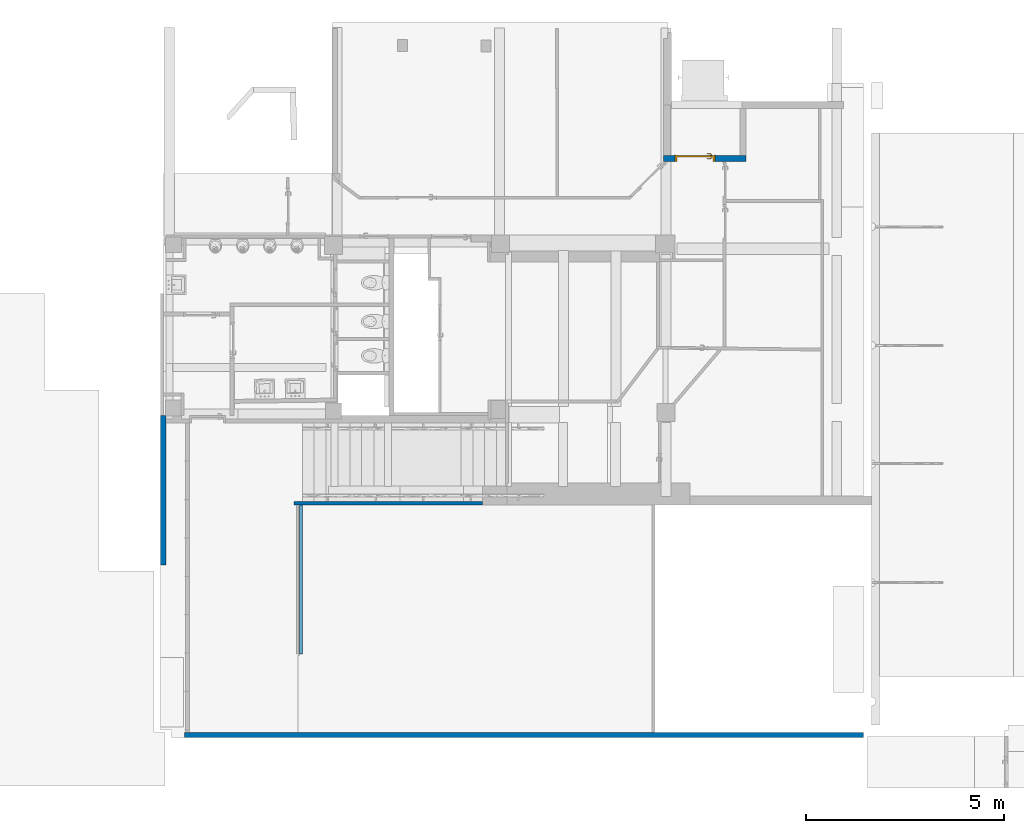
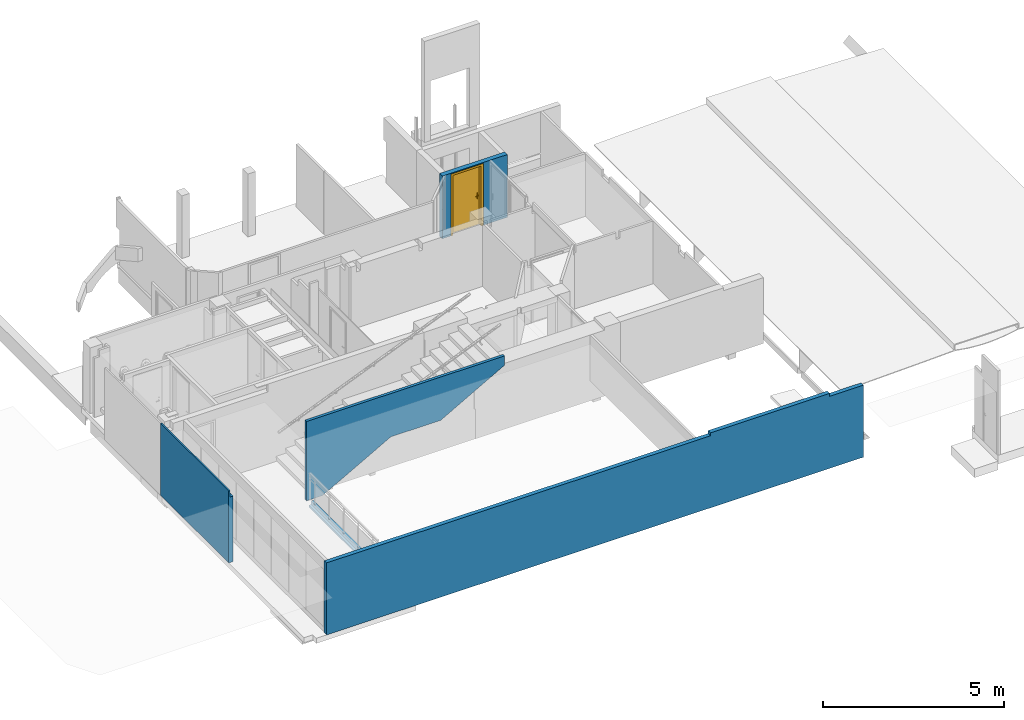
# One storey, part 8 of 32: 5 walls, 1 door, 2 openings.
"""IFC4 building model written with IfcOpenShell, lengths in metres."""

from ifc_helpers import new_model, entity, si_unit, converted_unit, derived_unit, direction, frame, origin, place, context, subcontext, project, spatial, indexed_curve, outline, extrude, polygons, source, transform, mapped, material, material_list, layer, layer_set, constituent, constituent_set, type_object, type_shapes, element, fill, save


model = new_model("IFC4")

# Units and contexts
model_context = context("Model", 3, precision=1e-05, world=origin(), true_north=direction((6.12303176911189e-17, 1.0)))
body_context = subcontext(model_context, "Body", "Model", "MODEL_VIEW")
ifc_project = project(units=[si_unit("LENGTHUNIT", "METRE"), si_unit("AREAUNIT", "SQUARE_METRE"), si_unit("VOLUMEUNIT", "CUBIC_METRE"), converted_unit("PLANEANGLEUNIT", "DEGREE", entity("IfcRatioMeasure", 0.0174532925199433), si_unit("PLANEANGLEUNIT", "RADIAN"), dimensions=[0, 0, 0, 0, 0, 0, 0]), si_unit("MASSUNIT", "GRAM", prefix="KILO"), derived_unit("MASSDENSITYUNIT", [(si_unit("MASSUNIT", "GRAM", prefix="KILO"), 1), (si_unit("LENGTHUNIT", "METRE"), -3)]), derived_unit("MOMENTOFINERTIAUNIT", [(si_unit("LENGTHUNIT", "METRE"), 4)]), si_unit("TIMEUNIT", "SECOND"), si_unit("FREQUENCYUNIT", "HERTZ"), si_unit("THERMODYNAMICTEMPERATUREUNIT", "DEGREE_CELSIUS"), derived_unit("THERMALTRANSMITTANCEUNIT", [(si_unit("MASSUNIT", "GRAM", prefix="KILO"), 1), (si_unit("THERMODYNAMICTEMPERATUREUNIT", "KELVIN"), -1), (si_unit("TIMEUNIT", "SECOND"), -3)]), derived_unit("VOLUMETRICFLOWRATEUNIT", [(si_unit("LENGTHUNIT", "METRE"), 3), (si_unit("TIMEUNIT", "SECOND"), -1)]), si_unit("ELECTRICCURRENTUNIT", "AMPERE"), si_unit("ELECTRICVOLTAGEUNIT", "VOLT"), si_unit("POWERUNIT", "WATT"), si_unit("FORCEUNIT", "NEWTON", prefix="KILO"), si_unit("ILLUMINANCEUNIT", "LUX"), si_unit("LUMINOUSFLUXUNIT", "LUMEN"), si_unit("LUMINOUSINTENSITYUNIT", "CANDELA"), derived_unit("USERDEFINED", [(si_unit("MASSUNIT", "GRAM", prefix="KILO"), -1), (si_unit("LENGTHUNIT", "METRE"), -2), (si_unit("TIMEUNIT", "SECOND"), 3), (si_unit("LUMINOUSFLUXUNIT", "LUMEN"), 1)]), derived_unit("LINEARVELOCITYUNIT", [(si_unit("LENGTHUNIT", "METRE"), 1), (si_unit("TIMEUNIT", "SECOND"), -1)]), si_unit("PRESSUREUNIT", "PASCAL"), derived_unit("USERDEFINED", [(si_unit("LENGTHUNIT", "METRE"), -2), (si_unit("MASSUNIT", "GRAM", prefix="KILO"), 1), (si_unit("TIMEUNIT", "SECOND"), -2)]), derived_unit("LINEARFORCEUNIT", [(si_unit("MASSUNIT", "GRAM", prefix="KILO"), 1), (si_unit("LENGTHUNIT", "METRE"), 1), (si_unit("TIMEUNIT", "SECOND"), -2), (si_unit("LENGTHUNIT", "METRE"), -1)]), derived_unit("PLANARFORCEUNIT", [(si_unit("MASSUNIT", "GRAM", prefix="KILO"), 1), (si_unit("LENGTHUNIT", "METRE"), 1), (si_unit("TIMEUNIT", "SECOND"), -2), (si_unit("LENGTHUNIT", "METRE"), -2)])], contexts=[model_context])

# Site, building, storey
site_placement = place(None, origin())
site = spatial("IfcSite", under=ifc_project, at=site_placement, Name="Default", CompositionType="ELEMENT")
building_placement = place(site_placement, origin())
building = spatial("IfcBuilding", under=site, at=building_placement, Name="HOTEL CONSULAIRE BOULOGNE SUR MER", CompositionType="ELEMENT")
storey_placement = place(building_placement, frame((0.0, 0.0, -2.70343668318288)))
storey = spatial("IfcBuildingStorey", under=building, at=storey_placement, Name="SS1", CompositionType="ELEMENT", Elevation=-2.70343668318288)

# Wall, opening
ifc_material_1 = material(Name="Mur par défaut", Category="Divers")
ifc_layer_1 = layer(ifc_material_1, 0.09, Name="Mur par défaut", Category="Divers")
ifc_layer_set_1 = layer_set([ifc_layer_1], Name="Mur de base:Générique - Int. 90")
wall_type_1 = type_object("IfcWallType", Name="Mur de base:Générique - Int. 90", PredefinedType="NOTDEFINED", material=ifc_layer_set_1)
wall_1_placement = place(storey_placement, frame((-2.23349679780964, -22.1242190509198, 0.0)))
wall_1 = element("IfcWall", 1, at=wall_1_placement, inside=storey, type_object=wall_type_1, material=ifc_layer_set_1, Name="Mur de base:Générique - Int. 90", ObjectType="Mur de base:Générique - Int. 90", PredefinedType="NOTDEFINED", context=body_context, shape_type="Tessellation", body=[
    polygons([(3.83012962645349e-16, -0.0450000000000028, 0.0), (0.501159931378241, -0.0449999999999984, 0.0), (2.68734745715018, -0.0450000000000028, 1.22171834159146), (4.28238041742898, -0.0450000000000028, 1.22171834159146), (6.32091142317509, -0.0450000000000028, 2.36985157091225), (6.32091142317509, -0.0450000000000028, 2.68343668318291), (3.83012962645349e-16, -0.0450000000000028, 2.68343668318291), (3.83012962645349e-16, -0.0450000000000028, 2.13100000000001), (6.38400292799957e-17, 0.0449999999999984, 0.0), (6.38400292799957e-17, 0.0449999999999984, 2.68343668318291), (6.32091142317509, 0.0449999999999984, 2.68343668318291), (6.32091142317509, 0.0449999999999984, 2.36985157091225), (4.28238041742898, 0.0449999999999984, 1.22171834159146), (2.68734745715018, 0.0449999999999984, 1.22171834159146), (0.50115993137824, 0.0450000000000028, 0.0)], [[[1, 2, 3, 4, 5, 6, 7, 8]], [[11, 12, 13, 14, 15, 9, 10]], [[2, 1, 9, 15]], [[4, 3, 14, 13]], [[6, 5, 12, 11]], [[7, 6, 11, 10]], [[3, 2, 15, 14]], [[5, 4, 13, 12]], [[10, 9, 1, 8, 7]]], closed=True),
])
opening_1_placement = place(wall_1_placement, origin())
element("IfcOpeningElement", 2, at=opening_1_placement, cuts=wall_1, Name="Mur de base:Générique - Int. 90", ObjectType="Opening", PredefinedType="OPENING", context=body_context, shape_type="SweptSolid", body=[
    extrude(outline(indexed_curve([(-2.14320251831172, -0.163465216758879), (1.83048897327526, -0.163465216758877), (0.312713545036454, 0.326930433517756), (-2.14320251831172, -0.163465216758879)], self_intersect=False)), frame((2.49029593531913, 0.0450000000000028, 0.814478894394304), z_axis=(0.0, -1.0, 0.0), x_axis=(0.951563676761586, 0.0, 0.307451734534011)), (0.0, 0.0, 1.0), 0.09),
])

# Wall
ifc_layer_2 = layer(ifc_material_1, 0.13, Name="Mur par défaut", Category="Divers")
ifc_layer_set_2 = layer_set([ifc_layer_2], Name="Mur de base:Générique - Int. 130 mm")
wall_type_2 = type_object("IfcWallType", Name="Mur de base:Générique - Int. 130 mm", PredefinedType="NOTDEFINED", material=ifc_layer_set_2)
wall_2_placement = place(storey_placement, frame((-4.99468938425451, -27.981273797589, 0.0)))
element("IfcWall", 3, at=wall_2_placement, inside=storey, type_object=wall_type_2, material=ifc_layer_set_2, Name="Mur de base:Générique - Int. 130 mm", ObjectType="Mur de base:Générique - Int. 130 mm", PredefinedType="NOTDEFINED", context=body_context, shape_type="Tessellation", body=[
    polygons([(16.0769162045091, 0.0649999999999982, 2.43343668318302), (16.0769162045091, -0.0650000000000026, 2.43343668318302), (17.1539162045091, -0.0650000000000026, 2.43343668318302), (17.1539162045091, 0.0649999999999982, 2.43343668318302), (16.3969162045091, 0.0649999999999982, 2.43343668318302), (16.2969162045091, 0.0649999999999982, 2.43343668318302), (2.59627302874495e-16, -0.0650000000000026, 0.0), (0.880410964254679, -0.0650000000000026, 0.0), (1.73941096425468, -0.0649999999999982, 0.0), (17.1539162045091, -0.0650000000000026, 0.0), (16.0769162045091, -0.0650000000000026, 2.5334366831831), (12.2668265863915, -0.0650000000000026, 2.5334366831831), (12.2668265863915, -0.0650000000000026, 2.43343668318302), (5.51436508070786, -0.0650000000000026, 2.43343668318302), (5.36436508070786, -0.0650000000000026, 2.43343668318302), (1.34249443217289e-15, -0.0650000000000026, 2.43343668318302), (17.1539162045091, 0.0649999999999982, 0.0), (16.3969162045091, 0.0649999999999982, 0.0), (16.2969162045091, 0.0649999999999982, 0.0), (0.117771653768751, 0.0649999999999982, 0.0), (0.0177716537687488, 0.0649999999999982, 0.0), (9.24688916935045e-16, 0.0649999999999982, 0.0), (-1.58178212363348e-16, 0.0649999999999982, 2.43343668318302), (0.0177716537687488, 0.0649999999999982, 2.43343668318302), (0.117771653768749, 0.0649999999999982, 2.43343668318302), (11.8144168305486, 0.0649999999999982, 2.43343668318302), (11.8844168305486, 0.0649999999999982, 2.43343668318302), (12.2668265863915, 0.0649999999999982, 2.43343668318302), (12.2668265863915, 0.0649999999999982, 2.5334366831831), (16.0769162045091, 0.0649999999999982, 2.5334366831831), (1.02110557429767e-15, 0.0349999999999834, 0.0), (17.1539162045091, 0.0349999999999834, 0.0)], [[[6, 1, 2, 3, 4, 5]], [[12, 11, 30, 29]], [[16, 15, 14, 13, 28, 27, 26, 25, 24, 23]], [[16, 7, 8, 9, 10, 3, 2, 11, 12, 13, 14, 15]], [[4, 17, 18, 19, 20, 21, 22, 23, 24, 25, 26, 27, 28, 29, 30, 1, 6, 5]], [[8, 7, 31, 22, 21, 20, 19, 18, 17, 32, 10, 9]], [[32, 17, 4, 3, 10]], [[30, 11, 2, 1]], [[31, 7, 16, 23, 22]], [[29, 28, 13, 12]]], closed=True),
])

# Wall, opening, door
ifc_layer_3 = layer(ifc_material_1, 0.15, Name="Mur par défaut", Category="Divers")
ifc_layer_set_3 = layer_set([ifc_layer_3], Name="Mur de base:Générique - Int. 150 mm")
wall_type_3 = type_object("IfcWallType", Name="Mur de base:Générique - Int. 150 mm", PredefinedType="NOTDEFINED", material=ifc_layer_set_3)
wall_3_placement = place(storey_placement, frame((7.1089802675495, -13.4116674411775, 0.313926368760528)))
wall_3 = element("IfcWall", 4, at=wall_3_placement, inside=storey, type_object=wall_type_3, material=ifc_layer_set_3, Name="Mur de base:Générique - Int. 150 mm", ObjectType="Mur de base:Générique - Int. 150 mm", PredefinedType="NOTDEFINED", context=body_context, shape_type="Tessellation", body=[
    polygons([(0.293698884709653, -0.0750000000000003, 6.41059464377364e-05), (0.124239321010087, -0.0750000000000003, 6.41059464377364e-05), (0.0246337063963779, -0.0750000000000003, 6.41059464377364e-05), (4.49000435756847e-16, -0.0750000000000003, 6.41059464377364e-05), (1.0330799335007e-15, 0.0750000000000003, 6.41059464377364e-05), (0.293698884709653, 0.0750000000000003, 6.41059464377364e-05), (2.08462368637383, -0.0750000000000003, 2.11951031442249), (1.57562368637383, -0.0750000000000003, 2.11951031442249), (1.50562368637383, -0.0750000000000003, 2.11951031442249), (0.124239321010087, -0.0750000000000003, 2.11951031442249), (0.0246337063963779, -0.0750000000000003, 2.11951031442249), (4.49000435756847e-16, -0.0750000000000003, 2.11951031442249), (0.293698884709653, -0.0750000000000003, 2.075), (1.29369888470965, -0.0750000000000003, 2.075), (1.29369888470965, -0.0750000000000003, 6.41059464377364e-05), (2.08462368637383, -0.0750000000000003, 6.41059464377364e-05), (1.0330799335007e-15, 0.0750000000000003, 2.11951031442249), (0.180000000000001, 0.0750000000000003, 2.11951031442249), (1.93462368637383, 0.0750000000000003, 2.11951031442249), (2.08462368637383, 0.0750000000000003, 2.11951031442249), (2.08462368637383, 0.0750000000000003, 6.41059464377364e-05), (1.29369888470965, 0.0750000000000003, 0.0), (1.29369888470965, 0.0750000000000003, 2.075), (0.293698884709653, 0.0750000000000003, 2.075)], [[[5, 6, 1, 2, 3, 4]], [[14, 13, 24, 23]], [[21, 16, 15]], [[13, 14, 15, 16, 7, 8, 9, 10, 11, 12, 4, 3, 2, 1]], [[21, 22, 23, 24, 6, 5, 17, 18, 19, 20]], [[8, 7, 20, 19, 18, 17, 12, 11, 10, 9]], [[7, 16, 21, 20]], [[13, 1, 6, 24]], [[17, 5, 4, 12]], [[15, 14, 23, 22]], [[15, 22, 21]]], closed=True),
])
opening_2_placement = place(wall_3_placement, frame((0.293698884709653, -0.0749999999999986, 0.0)))
opening_2 = element("IfcOpeningElement", 5, at=opening_2_placement, cuts=wall_3, Name="Int. Simple:PP0.93x2.04:1", ObjectType="Opening", PredefinedType="OPENING", context=body_context, shape_type="SweptSolid", body=[
    extrude(outline(indexed_curve([(0.0, -3.34762327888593e-30), (2.075, -3.34762327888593e-30), (2.075, 1.0), (0.0, 1.0), (0.0, -3.34762327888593e-30)], self_intersect=False)), frame((0.0, 0.0, 0.0), z_axis=(0.0, 1.0, 0.0), x_axis=(0.0, 0.0, 1.0)), (0.0, 0.0, 1.0), 0.15),
])
ifc_material_2 = material(Name="Finition Peinture - Blanc satiné", Category="Peinture")
ifc_constituent_1 = constituent(ifc_material_2, Name="Finition Peinture - Blanc satiné", Category="Matériaux")
ifc_material_3 = material(Name="Bois - Panneau de porte", Category="Bois")
ifc_constituent_2 = constituent(ifc_material_3, Name="Bois - Panneau de porte", Category="Matériaux")
ifc_material_4 = material(Name="Bois - Cadre de porte", Category="Bois")
ifc_constituent_3 = constituent(ifc_material_4, Name="Bois - Cadre de porte", Category="Matériaux")
ifc_constituent_set = constituent_set(constituents=[ifc_constituent_1, ifc_constituent_2, ifc_constituent_3], Name="MaterialConstituentSet")
ifc_material_list = material_list([ifc_material_4, ifc_material_4, ifc_material_2, ifc_material_3])
door_type = type_object("IfcDoorType", Name="Int. Simple:PP0.93x2.04", OperationType="NOTDEFINED", PredefinedType="DOOR", material=ifc_material_list)
shared_shape = source(origin(), body_context, "Body", "Tessellation", [
    polygons([(0.075000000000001, -0.00500000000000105, 0.870000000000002), (0.0846472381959, -0.00500000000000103, 0.866003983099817), (0.0950000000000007, -0.00500000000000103, 0.86464101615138), (0.105352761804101, -0.00500000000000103, 0.866003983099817), (0.115, -0.00500000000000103, 0.870000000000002), (0.114999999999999, -0.00500000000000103, 1.08), (0.1053527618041, -0.00500000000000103, 1.08399601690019), (0.0949999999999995, -0.00500000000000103, 1.08535898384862), (0.0846472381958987, -0.00500000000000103, 1.08399601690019), (0.0749999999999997, -0.00500000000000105, 1.08), (0.0749999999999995, -1.04902753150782e-15, 0.870000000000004), (0.0749999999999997, -1.04902753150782e-15, 1.08), (0.0846472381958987, -1.04902753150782e-15, 1.08399601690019), (0.0949999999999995, -1.04056763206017e-15, 1.08535898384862), (0.1053527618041, -1.04056763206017e-15, 1.08399601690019), (0.114999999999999, -1.03210773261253e-15, 1.08), (0.115, -1.03210773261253e-15, 0.870000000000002), (0.105352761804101, -1.04056763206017e-15, 0.866003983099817), (0.0950000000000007, -1.04056763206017e-15, 0.86464101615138), (0.0846472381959, -1.04902753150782e-15, 0.866003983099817)], [[[4, 5, 6, 7, 8, 9, 10, 1, 2, 3]], [[15, 16, 17, 18, 19, 20, 11, 12, 13, 14]], [[11, 20, 2, 1]], [[2, 20, 19, 3]], [[19, 18, 4, 3]], [[18, 17, 5, 4]], [[6, 5, 17, 16]], [[16, 15, 7, 6]], [[7, 15, 14, 8]], [[14, 13, 9, 8]], [[13, 12, 10, 9]], [[1, 10, 12, 11]]], closed=True),
    polygons([(0.114999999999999, 0.0399999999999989, 1.08), (0.1053527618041, 0.0399999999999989, 1.08399601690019), (0.0949999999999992, 0.0399999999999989, 1.08535898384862), (0.0846472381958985, 0.0399999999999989, 1.08399601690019), (0.0749999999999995, 0.0399999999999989, 1.08), (0.075000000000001, 0.0399999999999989, 0.870000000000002), (0.0846472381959, 0.0399999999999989, 0.866003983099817), (0.0950000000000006, 0.0399999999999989, 0.86464101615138), (0.105352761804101, 0.0399999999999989, 0.866003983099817), (0.115, 0.0399999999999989, 0.870000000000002), (0.114999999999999, 0.044999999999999, 1.08), (0.115, 0.044999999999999, 0.870000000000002), (0.105352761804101, 0.0449999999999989, 0.866003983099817), (0.0950000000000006, 0.0449999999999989, 0.86464101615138), (0.0846472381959, 0.0449999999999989, 0.866003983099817), (0.0749999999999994, 0.0449999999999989, 0.870000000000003), (0.0749999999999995, 0.0449999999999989, 1.08), (0.0846472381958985, 0.0449999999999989, 1.08399601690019), (0.0949999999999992, 0.0449999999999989, 1.08535898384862), (0.1053527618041, 0.0449999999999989, 1.08399601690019)], [[[9, 10, 1, 2, 3, 4, 5, 6, 7, 8]], [[20, 11, 12, 13, 14, 15, 16, 17, 18, 19]], [[11, 20, 2, 1]], [[2, 20, 19, 3]], [[19, 18, 4, 3]], [[18, 17, 5, 4]], [[6, 5, 17, 16]], [[16, 15, 7, 6]], [[7, 15, 14, 8]], [[14, 13, 9, 8]], [[13, 12, 10, 9]], [[1, 10, 12, 11]]], closed=True),
    polygons([(0.0889999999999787, -0.00500000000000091, 1.007), (0.0929747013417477, -0.00500000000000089, 1.00778044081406), (0.097025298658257, -0.00500000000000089, 1.00778044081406), (0.101000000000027, -0.00500000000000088, 1.00699999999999), (0.101000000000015, -0.00500000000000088, 0.993000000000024), (0.0970252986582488, -0.00500000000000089, 0.992219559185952), (0.0929747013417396, -0.00500000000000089, 0.99221955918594), (0.0889999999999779, -0.00500000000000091, 0.992999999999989), (0.0889999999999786, -0.0326509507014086, 1.007), (0.0929747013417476, -0.0310045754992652, 1.00778044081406), (0.0970252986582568, -0.0293267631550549, 1.00778044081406), (0.101000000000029, -0.0276803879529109, 1.007), (0.101000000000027, -0.0276803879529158, 0.993000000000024), (0.0970252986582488, -0.0293267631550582, 0.992219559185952), (0.0929747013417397, -0.0310045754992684, 0.99221955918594), (0.0889999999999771, -0.0326509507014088, 0.992999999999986), (0.107377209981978, -0.051028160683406, 1.007), (0.109023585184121, -0.0470534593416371, 1.00778044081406), (0.110701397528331, -0.0430028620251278, 1.00778044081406), (0.112347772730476, -0.0390281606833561, 1.007), (0.112347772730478, -0.0390281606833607, 0.993000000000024), (0.110701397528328, -0.0430028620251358, 0.992219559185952), (0.109023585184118, -0.0470534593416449, 0.99221955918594), (0.107377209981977, -0.0510281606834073, 0.992999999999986), (0.195018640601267, -0.0510281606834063, 1.00699999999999), (0.195018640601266, -0.051028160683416, 0.992999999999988), (0.195018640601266, -0.0470534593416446, 0.99221955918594), (0.195018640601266, -0.0430028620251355, 0.992219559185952), (0.195018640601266, -0.0390281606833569, 0.993000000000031), (0.195018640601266, -0.0390281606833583, 1.007), (0.195018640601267, -0.0430028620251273, 1.00778044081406), (0.195018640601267, -0.0470534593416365, 1.00778044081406), (0.147307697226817, -0.0510281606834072, 1.007), (0.152860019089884, -0.045028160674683, 1.0078786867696), (0.15368320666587, -0.039028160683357, 1.007), (0.147307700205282, -0.0510281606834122, 0.992999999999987), (0.152860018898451, -0.0450281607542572, 0.992121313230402), (0.153683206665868, -0.0390281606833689, 0.993000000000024)], [[[2, 3, 4, 5, 6, 7, 8, 1]], [[21, 20, 35, 30, 29, 38]], [[9, 10, 2, 1]], [[10, 18, 19, 11, 3, 2]], [[11, 12, 4, 3]], [[5, 4, 12, 13]], [[26, 27, 28, 29, 30, 31, 32, 25]], [[13, 14, 6, 5]], [[14, 22, 23, 15, 7, 6]], [[15, 16, 8, 7]], [[1, 8, 16, 9]], [[17, 18, 10, 9]], [[19, 20, 12, 11]], [[13, 12, 20, 21]], [[21, 22, 14, 13]], [[23, 24, 16, 15]], [[9, 16, 24, 17]], [[33, 32, 34]], [[25, 32, 33]], [[18, 17, 33]], [[34, 35, 19]], [[20, 19, 35]], [[35, 31, 30]], [[32, 31, 34]], [[31, 35, 34]], [[18, 33, 34]], [[18, 34, 19]], [[38, 28, 37]], [[36, 37, 27]], [[21, 38, 22]], [[38, 29, 28]], [[26, 36, 27]], [[24, 23, 36]], [[36, 23, 37]], [[23, 22, 37]], [[22, 38, 37]], [[27, 37, 28]], [[17, 24, 36, 26, 25, 33]]], closed=True),
    polygons([(0.10100000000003, 0.0449999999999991, 0.993000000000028), (0.101000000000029, 0.0449999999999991, 1.007), (0.0970252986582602, 0.0449999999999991, 1.00778044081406), (0.092974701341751, 0.0449999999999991, 1.00778044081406), (0.0889999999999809, 0.0449999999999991, 1.007), (0.0889999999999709, 0.0449999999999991, 0.992999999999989), (0.0929747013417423, 0.0449999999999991, 0.99221955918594), (0.0970252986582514, 0.0449999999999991, 0.992219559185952), (0.10100000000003, 0.067485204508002, 0.993000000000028), (0.10100000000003, 0.0674852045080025, 1.007), (0.0970252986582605, 0.0691315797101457, 1.00778044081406), (0.0929747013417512, 0.070809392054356, 1.00778044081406), (0.088999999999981, 0.0724557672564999, 1.007), (0.0889999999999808, 0.0724557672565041, 0.992999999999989), (0.092974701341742, 0.0708093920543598, 0.99221955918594), (0.0970252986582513, 0.0691315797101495, 0.992219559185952), (0.112485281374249, 0.0789704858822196, 0.993000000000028), (0.112485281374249, 0.0789704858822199, 1.007), (0.110838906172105, 0.0829451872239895, 1.00778044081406), (0.109161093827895, 0.0869957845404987, 1.00778044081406), (0.107514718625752, 0.090970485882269, 1.007), (0.107514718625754, 0.090970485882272, 0.992999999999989), (0.109161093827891, 0.0869957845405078, 0.99221955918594), (0.110838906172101, 0.0829451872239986, 0.992219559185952), (0.195045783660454, 0.0789704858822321, 0.993000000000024), (0.195045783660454, 0.0829451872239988, 0.992219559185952), (0.195045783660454, 0.086995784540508, 0.99221955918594), (0.195045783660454, 0.0909704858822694, 0.992999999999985), (0.195045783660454, 0.0909704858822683, 1.007), (0.195045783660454, 0.0869957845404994, 1.00778044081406), (0.195045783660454, 0.0829451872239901, 1.00778044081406), (0.195045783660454, 0.0789704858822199, 1.007), (0.147445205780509, 0.0909704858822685, 1.007), (0.152942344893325, 0.0849704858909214, 1.0078786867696), (0.153765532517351, 0.0789704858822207, 1.007), (0.147445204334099, 0.0909704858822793, 0.992999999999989), (0.152942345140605, 0.0849704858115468, 0.992121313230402), (0.153765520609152, 0.0789704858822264, 0.993000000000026)], [[[4, 5, 6, 7, 8, 1, 2, 3]], [[18, 17, 38, 25, 32, 35]], [[2, 1, 9, 10]], [[25, 26, 27, 28, 29, 30, 31, 32]], [[10, 11, 3, 2]], [[11, 19, 20, 12, 4, 3]], [[12, 13, 5, 4]], [[6, 5, 13, 14]], [[14, 15, 7, 6]], [[15, 23, 24, 16, 8, 7]], [[16, 9, 1, 8]], [[10, 9, 17, 18]], [[18, 19, 11, 10]], [[20, 21, 13, 12]], [[14, 13, 21, 22]], [[22, 23, 15, 14]], [[24, 17, 9, 16]], [[35, 31, 34]], [[33, 34, 30]], [[18, 35, 19]], [[35, 32, 31]], [[29, 33, 30]], [[21, 20, 33]], [[33, 20, 34]], [[20, 19, 34]], [[19, 35, 34]], [[30, 34, 31]], [[21, 33, 29, 28, 36, 22]], [[36, 27, 37]], [[28, 27, 36]], [[23, 22, 36]], [[37, 38, 24]], [[17, 24, 38]], [[38, 26, 25]], [[27, 26, 37]], [[26, 38, 37]], [[23, 36, 37]], [[23, 37, 24]]], closed=True),
    polygons([(0.0349999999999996, 0.04, 2.04), (0.965, 0.04, 2.04), (0.965, 0.04, 0.0), (0.0349999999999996, 0.04, 0.0), (0.0349999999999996, 5.07593966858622e-17, 2.04), (0.0349999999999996, 5.07593966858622e-17, 0.0), (0.965, 5.07593966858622e-17, 0.0), (0.965, 5.07593966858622e-17, 2.04)], [[[4, 1, 2, 3]], [[7, 8, 5, 6]], [[2, 1, 5, 8]], [[3, 2, 8, 7]], [[4, 3, 7, 6]], [[1, 4, 6, 5]]], closed=True),
    polygons([(-1.53631773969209e-14, 1.69197988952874e-17, 0.0), (-1.53631773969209e-14, 0.150000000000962, 0.0), (0.0499999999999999, 0.150000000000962, 0.0), (0.0499999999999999, 0.0400000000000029, 0.0), (0.0349999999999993, 0.0400000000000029, 0.0), (0.0349999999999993, 1.69197988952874e-17, 0.0), (-1.51601398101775e-14, 1.69197988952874e-17, 2.07500000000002), (-1.51601398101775e-14, 0.150000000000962, 2.07500000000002), (1.00000000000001, 0.150000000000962, 2.07500000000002), (1.00000000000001, 0.150000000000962, 3.88816484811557e-25), (0.95, 0.150000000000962, 3.59657255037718e-24), (0.95, 0.150000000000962, 2.025), (0.05, 0.150000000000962, 2.025), (0.05, 0.0400000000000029, 2.025), (0.95, 0.0400000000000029, 2.025), (0.95, 0.0400000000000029, 2.24110802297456e-24), (0.965, 0.0400000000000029, -4.78103047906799e-25), (0.965, 0.0400000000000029, 2.04), (0.0349999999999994, 0.0400000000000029, 2.04), (0.0349999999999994, 1.69197988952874e-17, 2.04), (0.965, 1.69197988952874e-17, 2.04), (0.965, 1.69197988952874e-17, -2.84752548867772e-24), (1.00000000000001, 1.69197988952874e-17, -3.95490158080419e-25), (1.00000000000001, 1.69197988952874e-17, 2.07500000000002)], [[[5, 6, 1, 2, 3, 4]], [[11, 10, 23, 22, 17, 16]], [[14, 13, 12, 15]], [[20, 19, 18, 21]], [[2, 1, 7, 8]], [[15, 12, 11, 16]], [[21, 18, 17, 22]], [[3, 2, 8, 9, 10, 11, 12, 13]], [[4, 3, 13, 14]], [[6, 5, 19, 20]], [[9, 24, 23, 10]], [[16, 17, 18, 19, 5, 4, 14, 15]], [[22, 23, 24, 7, 1, 6, 20, 21]], [[8, 7, 24, 9]]], closed=True),
    polygons([(0.0149999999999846, 0.150000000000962, 0.0), (-0.0150000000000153, 0.150000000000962, 0.0), (-0.0150000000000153, 0.155000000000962, 0.0), (0.0149999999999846, 0.155000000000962, 0.0), (0.0149999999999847, 0.150000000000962, 2.06000000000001), (0.98499999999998, 0.150000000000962, 2.06000000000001), (0.98499999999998, 0.150000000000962, -1.80158911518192e-24), (1.01499999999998, 0.150000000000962, -9.00794238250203e-25), (1.01499999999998, 0.150000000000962, 2.09000000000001), (-0.0150000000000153, 0.150000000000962, 2.09000000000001), (-0.0150000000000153, 0.155000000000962, 2.09000000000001), (1.01499999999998, 0.155000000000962, 2.09000000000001), (1.01499999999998, 0.155000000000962, -5.48159974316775e-24), (0.98499999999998, 0.155000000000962, -4.34281663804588e-24), (0.98499999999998, 0.155000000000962, 2.06000000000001), (0.0149999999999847, 0.155000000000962, 2.06000000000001)], [[[1, 2, 3, 4]], [[14, 13, 8, 7]], [[5, 16, 15, 6]], [[7, 8, 9, 10, 2, 1, 5, 6]], [[3, 2, 10, 11]], [[6, 15, 14, 7]], [[4, 3, 11, 12, 13, 14, 15, 16]], [[1, 4, 16, 5]], [[12, 9, 8, 13]], [[11, 10, 9, 12]]], closed=True),
    polygons([(0.0149999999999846, -0.00499999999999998, 0.0), (-0.0150000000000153, -0.00499999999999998, 0.0), (-0.0150000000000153, 1.69197988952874e-17, 0.0), (0.0149999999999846, 1.69197988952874e-17, 0.0), (0.98499999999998, -0.00499999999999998, 5.41433564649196e-16), (0.98499999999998, 1.69197988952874e-17, 5.41433564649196e-16), (1.01499999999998, 1.69197988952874e-17, 5.41433564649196e-16), (1.01499999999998, -0.00499999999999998, 5.41433564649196e-16), (0.0149999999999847, -0.00499999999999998, 2.06000000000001), (0.98499999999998, -0.00499999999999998, 2.06000000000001), (1.01499999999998, -0.00499999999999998, 2.09000000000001), (-0.0150000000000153, -0.00499999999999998, 2.09000000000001), (-0.0150000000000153, 1.69197988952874e-17, 2.09000000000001), (1.01499999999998, 1.69197988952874e-17, 2.09000000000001), (0.98499999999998, 1.69197988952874e-17, 2.06000000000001), (0.0149999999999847, 1.69197988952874e-17, 2.06000000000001)], [[[2, 3, 4, 1]], [[6, 7, 8, 5]], [[9, 16, 15, 10]], [[5, 8, 11, 12, 2, 1, 9, 10]], [[3, 2, 12, 13]], [[10, 15, 6, 5]], [[4, 3, 13, 14, 7, 6, 15, 16]], [[1, 4, 16, 9]], [[14, 11, 8, 7]], [[13, 12, 11, 14]]], closed=True),
])
type_shapes(door_type, [shared_shape])
door_placement = place(opening_2_placement, frame((1.0, 0.149999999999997, 0.0), z_axis=(0.0, 0.0, 1.0), x_axis=(-1.0, 0.0, 0.0)))
door = element("IfcDoor", 6, at=door_placement, inside=storey, type_object=door_type, material=ifc_constituent_set, Name="Int. Simple:PP0.93x2.04", ObjectType="Int. Simple:PP0.93x2.04", OperationType="NOTDEFINED", OverallHeight=2.075, OverallWidth=1.0, PredefinedType="DOOR", context=body_context, shape_type="MappedRepresentation", body=[
    mapped(shared_shape, transform((0.0, 0.0, 0.0), scale=1.0)),
])
fill(opening_2, door)

# Walls
wall_4_placement = place(storey_placement, frame((-2.09270864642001, -25.934273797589, -0.230853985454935), z_axis=(0.0, 0.0, 1.0), x_axis=(0.0, 1.0, 0.0)))
element("IfcWall", 7, at=wall_4_placement, inside=storey, type_object=wall_type_3, material=ifc_layer_set_3, Name="Mur de base:Générique - Int. 150 mm", ObjectType="Mur de base:Générique - Int. 150 mm", PredefinedType="NOTDEFINED", context=body_context, shape_type="Tessellation", body=[
    polygons([(0.0, -0.0749999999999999, 0.0), (3.76505474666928, -0.0749999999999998, 0.0), (3.76505474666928, -0.0749999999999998, 0.179853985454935), (0.0, -0.0749999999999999, 0.179853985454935), (3.76505474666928, 0.0750000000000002, 0.0), (0.0, 0.0750000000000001, 0.0), (0.0, 0.0750000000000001, 0.0608539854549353), (3.76505474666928, 0.0750000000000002, 0.0608539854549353), (3.76505474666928, 1.28161769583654e-15, 0.179853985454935), (0.0, 1.1562642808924e-15, 0.179853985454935), (0.0, 1.1562642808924e-15, 0.0608539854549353), (3.76505474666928, 1.01090091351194e-15, 0.0608539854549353)], [[[4, 1, 2, 3]], [[8, 5, 6, 7]], [[9, 12, 11, 10]], [[2, 1, 6, 5]], [[4, 3, 9, 10]], [[7, 11, 12, 8]], [[1, 4, 10, 11, 7, 6]], [[8, 12, 9, 3, 2, 5]]], closed=True),
])
ifc_layer_4 = layer(ifc_material_1, 0.14, Name="Mur par défaut", Category="Divers")
ifc_layer_set_4 = layer_set([ifc_layer_4], Name="Mur de base:Générique - Int.140")
wall_type_4 = type_object("IfcWallType", Name="Mur de base:Générique - Int.140", PredefinedType="NOTDEFINED", material=ifc_layer_set_4)
wall_5_placement = place(storey_placement, frame((-5.53198856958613, -23.6845842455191, 0.0), z_axis=(0.0, 0.0, 1.0), x_axis=(0.0, 1.0, 0.0)))
element("IfcWall", 8, at=wall_5_placement, inside=storey, type_object=wall_type_4, material=ifc_layer_set_4, Name="Mur de base:Générique - Int.140", ObjectType="Mur de base:Générique - Int.140", PredefinedType="NOTDEFINED", context=body_context, shape_type="Tessellation", body=[
    polygons([(0.0, -0.0699999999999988, 0.0), (3.58966988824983, -0.0699999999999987, 0.0), (3.68635291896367, -0.0699999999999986, 0.0), (3.76235291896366, -0.0699999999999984, 0.0), (3.76966988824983, -0.0699999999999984, 0.0), (3.76966988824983, -0.0699999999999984, 2.21343668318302), (3.58966988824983, -0.0699999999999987, 2.21343668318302), (0.0, -0.0699999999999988, 2.21343668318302), (3.76966988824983, 0.0700000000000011, 0.0), (3.68635291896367, 0.070000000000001, 0.0), (4.33146851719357e-15, 0.0700000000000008, 0.0), (4.33146851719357e-15, 0.0700000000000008, 2.43343668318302), (3.76966988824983, 0.0700000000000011, 2.43343668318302), (0.0, 4.40079462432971e-16, 0.0), (3.76966988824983, -0.00999999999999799, 0.0), (4.33146851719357e-15, 0.022519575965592, 2.43343668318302), (3.76966988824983, 0.0225195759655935, 2.43343668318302), (3.76966988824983, 0.0225195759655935, 2.21343668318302), (3.76966988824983, -0.00999999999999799, 2.21343668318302), (4.33146851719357e-15, 0.022519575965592, 2.21343668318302)], [[[1, 2, 3, 4, 5, 6, 7, 8]], [[17, 16, 20, 18]], [[13, 9, 10, 11, 12]], [[2, 1, 14, 11, 10, 9, 15, 5, 4, 3]], [[16, 17, 13, 12]], [[7, 6, 19, 18, 20, 8]], [[5, 15, 9, 13, 17, 18, 19, 6]], [[8, 20, 16, 12, 11, 14, 1]]], closed=True),
])

save(model, "model.ifc")
